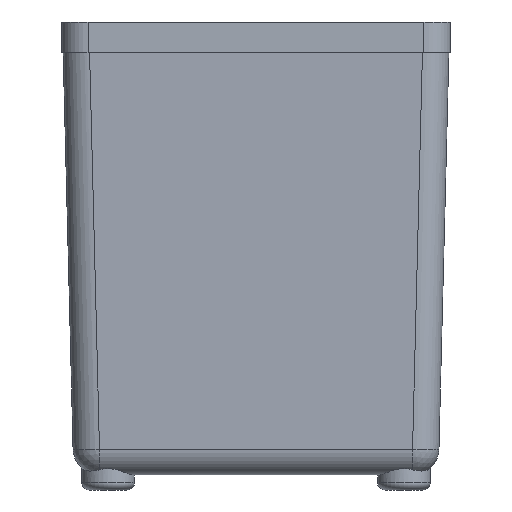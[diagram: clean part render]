
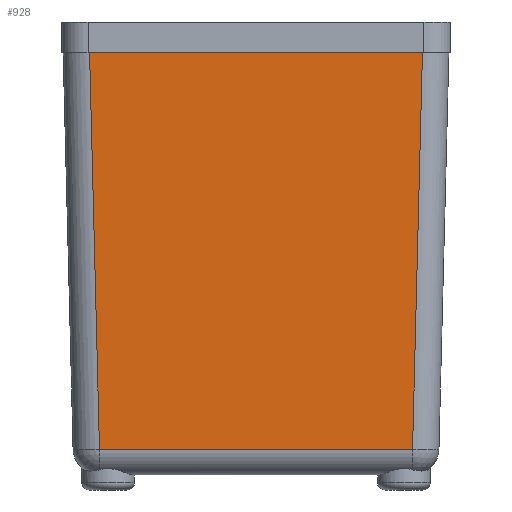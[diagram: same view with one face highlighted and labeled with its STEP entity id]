
A CAD part, left-side view. The second image highlights one B-rep face of the part: STEP entity #928.
In plain terms, the highlighted planar face has unit normal (-1, 0, -0.025).
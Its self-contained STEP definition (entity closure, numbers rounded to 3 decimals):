
#44=PLANE('',#1050);
#58=LINE('',#1654,#118);
#83=LINE('',#1734,#143);
#91=LINE('',#1759,#151);
#93=LINE('',#1767,#153);
#118=VECTOR('',#1182,10.);
#143=VECTOR('',#1261,10.);
#151=VECTOR('',#1289,10.);
#153=VECTOR('',#1301,10.);
#244=FACE_OUTER_BOUND('',#301,.T.);
#301=EDGE_LOOP('',(#791,#792,#793,#794));
#419=VERTEX_POINT('',#1645);
#421=VERTEX_POINT('',#1652);
#449=VERTEX_POINT('',#1733);
#456=VERTEX_POINT('',#1757);
#520=EDGE_CURVE('',#421,#419,#58,.T.);
#560=EDGE_CURVE('',#419,#449,#83,.T.);
#573=EDGE_CURVE('',#456,#421,#91,.T.);
#577=EDGE_CURVE('',#449,#456,#93,.T.);
#791=ORIENTED_EDGE('',*,*,#560,.F.);
#792=ORIENTED_EDGE('',*,*,#520,.F.);
#793=ORIENTED_EDGE('',*,*,#573,.F.);
#794=ORIENTED_EDGE('',*,*,#577,.F.);
#928=ADVANCED_FACE('',(#244),#44,.T.);
#1050=AXIS2_PLACEMENT_3D('',#1766,#1299,#1300);
#1182=DIRECTION('',(0.,1.,0.));
#1261=DIRECTION('',(-0.025,0.025,0.999));
#1289=DIRECTION('',(0.025,0.025,-0.999));
#1299=DIRECTION('center_axis',(-1.,0.,-0.025));
#1300=DIRECTION('ref_axis',(-0.025,0.,1.));
#1301=DIRECTION('',(0.,-1.,0.));
#1645=CARTESIAN_POINT('',(-50.385,20.736,3.413));
#1652=CARTESIAN_POINT('',(-50.385,-20.736,3.413));
#1654=CARTESIAN_POINT('',(-50.385,12.075,3.413));
#1733=CARTESIAN_POINT('',(-51.7,22.051,56.));
#1734=CARTESIAN_POINT('',(-50.271,20.622,-1.169));
#1757=CARTESIAN_POINT('',(-51.7,-22.051,56.));
#1759=CARTESIAN_POINT('',(-50.287,-20.638,-0.516));
#1766=CARTESIAN_POINT('Origin',(-50.3,24.15,0.));
#1767=CARTESIAN_POINT('',(-51.7,12.075,56.));
